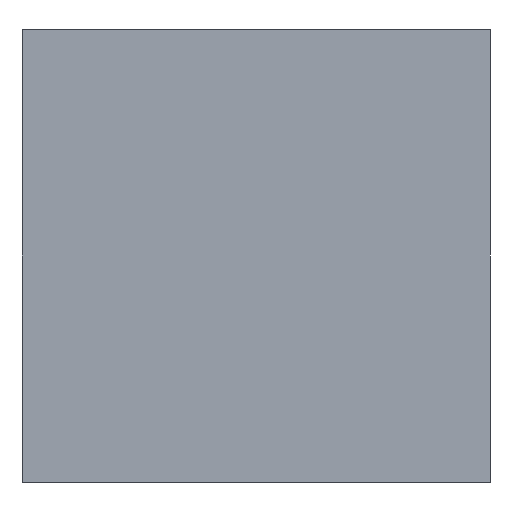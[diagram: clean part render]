
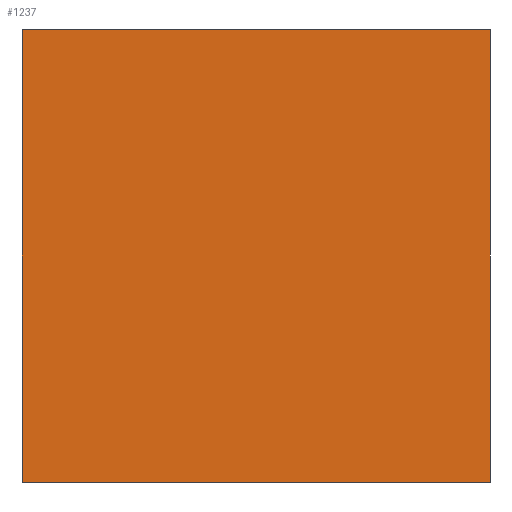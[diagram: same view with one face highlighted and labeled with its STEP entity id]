
A CAD part, left-side view. The second image highlights one B-rep face of the part: STEP entity #1237.
In plain terms, the highlighted planar face has unit normal (-1, 0, 0).
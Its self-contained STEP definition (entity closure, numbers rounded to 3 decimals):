
#132 = LINE ( 'NONE', #1113, #1596 ) ;
#134 = CARTESIAN_POINT ( 'NONE',  ( -140., 25.5, 0. ) ) ;
#157 = CARTESIAN_POINT ( 'NONE',  ( -140., -25.5, 49.3 ) ) ;
#449 = ORIENTED_EDGE ( 'NONE', *, *, #2632, .T. ) ;
#497 = EDGE_CURVE ( 'NONE', #1401, #2167, #1782, .T. ) ;
#664 = VERTEX_POINT ( 'NONE', #157 ) ;
#666 = DIRECTION ( 'NONE',  ( 0., 0., -1. ) ) ;
#700 = VECTOR ( 'NONE', #666, 1000. ) ;
#755 = VECTOR ( 'NONE', #1828, 1000. ) ;
#830 = EDGE_CURVE ( 'NONE', #1401, #664, #2442, .T. ) ;
#841 = ORIENTED_EDGE ( 'NONE', *, *, #1070, .F. ) ;
#886 = CARTESIAN_POINT ( 'NONE',  ( -140., 25.5, 49.3 ) ) ;
#1070 = EDGE_CURVE ( 'NONE', #664, #2162, #2206, .T. ) ;
#1097 = CARTESIAN_POINT ( 'NONE',  ( -140., 25.5, 49.3 ) ) ;
#1113 = CARTESIAN_POINT ( 'NONE',  ( -140., -25.5, 0. ) ) ;
#1167 = PLANE ( 'NONE',  #1914 ) ;
#1180 = DIRECTION ( 'NONE',  ( 0., 0., -1. ) ) ;
#1193 = CARTESIAN_POINT ( 'NONE',  ( -140., -25.5, 49.3 ) ) ;
#1217 = CARTESIAN_POINT ( 'NONE',  ( -140., -25.5, 0. ) ) ;
#1237 = ADVANCED_FACE ( 'NONE', ( #2004 ), #1167, .F. ) ;
#1401 = VERTEX_POINT ( 'NONE', #886 ) ;
#1513 = DIRECTION ( 'NONE',  ( 0., -1., 0. ) ) ;
#1596 = VECTOR ( 'NONE', #1513, 1000. ) ;
#1610 = ORIENTED_EDGE ( 'NONE', *, *, #830, .F. ) ;
#1704 = VECTOR ( 'NONE', #1941, 1000. ) ;
#1774 = ORIENTED_EDGE ( 'NONE', *, *, #497, .T. ) ;
#1775 = CARTESIAN_POINT ( 'NONE',  ( -140., -25.5, 49.3 ) ) ;
#1782 = LINE ( 'NONE', #1097, #700 ) ;
#1828 = DIRECTION ( 'NONE',  ( 0., 0., -1. ) ) ;
#1914 = AXIS2_PLACEMENT_3D ( 'NONE', #1775, #2400, #1180 ) ;
#1941 = DIRECTION ( 'NONE',  ( 0., -1., 0. ) ) ;
#2004 = FACE_OUTER_BOUND ( 'NONE', #2570, .T. ) ;
#2162 = VERTEX_POINT ( 'NONE', #1217 ) ;
#2167 = VERTEX_POINT ( 'NONE', #134 ) ;
#2206 = LINE ( 'NONE', #1193, #755 ) ;
#2386 = CARTESIAN_POINT ( 'NONE',  ( -140., -25.5, 49.3 ) ) ;
#2400 = DIRECTION ( 'NONE',  ( 1., 0., 0. ) ) ;
#2442 = LINE ( 'NONE', #2386, #1704 ) ;
#2570 = EDGE_LOOP ( 'NONE', ( #449, #841, #1610, #1774 ) ) ;
#2632 = EDGE_CURVE ( 'NONE', #2167, #2162, #132, .T. ) ;
